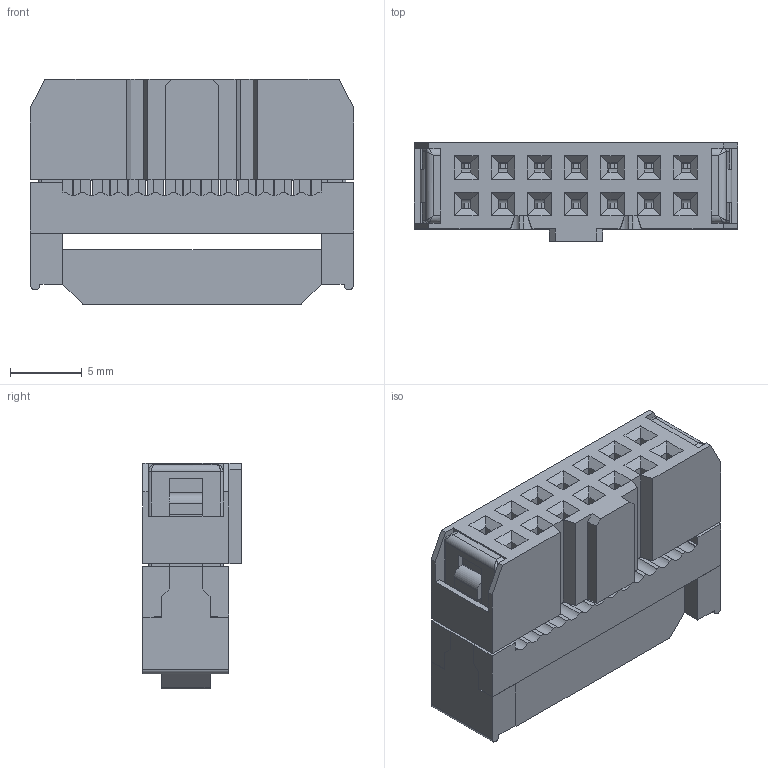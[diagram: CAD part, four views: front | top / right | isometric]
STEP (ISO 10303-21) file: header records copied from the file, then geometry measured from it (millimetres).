
FILE_DESCRIPTION(('FreeCAD Model'),'2;1');
FILE_NAME('C:/Users/Metaltex-99/Desktop/L-14.stp','2020-12-09T08:17:34', ('Engenharia Metaltex'),('Metaltex'),'Open CASCADE STEP processor 7.3' ,'FreeCAD','Unknown');
FILE_SCHEMA(('AUTOMOTIVE_DESIGN { 1 0 10303 214 1 1 1 1 }'));
Length unit declared in the file: millimetre
Products named in the file (4): L-14; 2; 3; 1
Assembly tree (3 placements, depth 2):
  L-14
    2
    3
    1
Bounding box: 22.46 x 6.86 x 15.7 mm (x, y, z)
Volume: 774 mm3; surface area: 3011.6 mm2
Topology: 2 solids, 17 shells, 975 faces, 2684 edges, 1736 vertices
Faces by surface type: plane 747, cylinder 210, extrusion 6, bspline 4, sphere 4, torus 4
Entity records: 66808 total; most frequent: CARTESIAN_POINT 12710, DIRECTION 10063, VECTOR 6905, LINE 6899, ORIENTED_EDGE 5360, PCURVE 5360, DEFINITIONAL_REPRESENTATION 5360, EDGE_CURVE 2680
